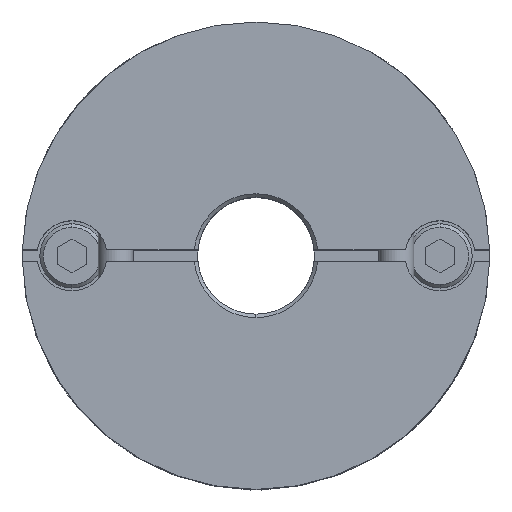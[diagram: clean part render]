
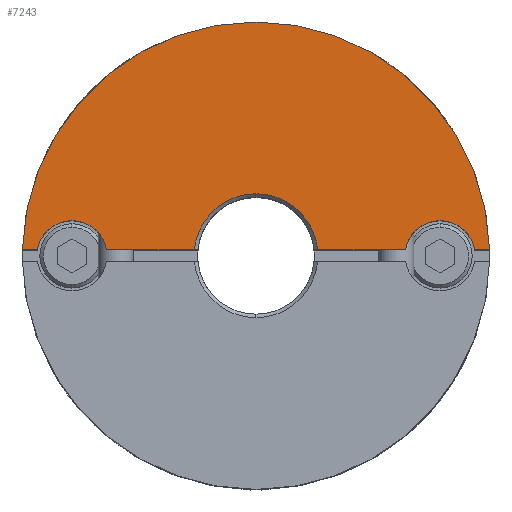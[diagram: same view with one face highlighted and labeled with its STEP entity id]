
A CAD part, top view. The second image highlights one B-rep face of the part: STEP entity #7243.
In plain terms, the highlighted planar face has unit normal (0, 0, 1).
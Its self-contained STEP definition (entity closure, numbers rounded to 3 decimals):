
#605=CARTESIAN_POINT('',(0.,20.0,15.6));
#606=VERTEX_POINT('',#605);
#690=CARTESIAN_POINT('',(-19.994,0.5,15.6));
#691=VERTEX_POINT('',#690);
#698=CARTESIAN_POINT('',(0.,0.0,15.6));
#699=DIRECTION('',(0.0,0.0,-1.0));
#700=DIRECTION('',(0.0,1.0,0.0));
#701=AXIS2_PLACEMENT_3D('',#698,#699,#700);
#702=CIRCLE('',#701,20.0);
#703=EDGE_CURVE('',#691,#606,#702,.T.);
#993=CARTESIAN_POINT('',(0.,5.3,15.6));
#994=VERTEX_POINT('',#993);
#1001=CARTESIAN_POINT('',(-5.276,0.5,15.6));
#1002=VERTEX_POINT('',#1001);
#1003=CARTESIAN_POINT('',(0.,0.0,15.6));
#1004=DIRECTION('',(0.0,0.0,1.0));
#1005=DIRECTION('',(0.0,-1.0,0.0));
#1006=AXIS2_PLACEMENT_3D('',#1003,#1004,#1005);
#1007=CIRCLE('',#1006,5.3);
#1008=EDGE_CURVE('',#994,#1002,#1007,.T.);
#1309=CARTESIAN_POINT('',(-15.75,3.,15.6));
#1310=VERTEX_POINT('',#1309);
#1319=CARTESIAN_POINT('',(-18.708,0.5,15.6));
#1320=VERTEX_POINT('',#1319);
#1321=CARTESIAN_POINT('',(-15.75,0.,15.6));
#1322=DIRECTION('',(0.0,0.0,-1.0));
#1323=DIRECTION('',(0.0,1.0,0.0));
#1324=AXIS2_PLACEMENT_3D('',#1321,#1322,#1323);
#1325=CIRCLE('',#1324,3.0);
#1326=EDGE_CURVE('',#1320,#1310,#1325,.T.);
#1579=CARTESIAN_POINT('',(15.75,3.,15.6));
#1580=VERTEX_POINT('',#1579);
#1589=CARTESIAN_POINT('',(12.792,0.5,15.6));
#1590=VERTEX_POINT('',#1589);
#1591=CARTESIAN_POINT('',(15.75,0.,15.6));
#1592=DIRECTION('',(0.0,0.0,-1.0));
#1593=DIRECTION('',(0.0,1.0,0.0));
#1594=AXIS2_PLACEMENT_3D('',#1591,#1592,#1593);
#1595=CIRCLE('',#1594,3.0);
#1596=EDGE_CURVE('',#1590,#1580,#1595,.T.);
#5954=CARTESIAN_POINT('',(18.708,0.5,15.6));
#5955=VERTEX_POINT('',#5954);
#5962=CARTESIAN_POINT('',(15.75,0.,15.6));
#5963=DIRECTION('',(0.0,0.0,-1.0));
#5964=DIRECTION('',(0.0,1.0,0.0));
#5965=AXIS2_PLACEMENT_3D('',#5962,#5963,#5964);
#5966=CIRCLE('',#5965,3.0);
#5967=EDGE_CURVE('',#1580,#5955,#5966,.T.);
#6406=CARTESIAN_POINT('',(-12.792,0.5,15.6));
#6407=VERTEX_POINT('',#6406);
#6414=CARTESIAN_POINT('',(-15.75,0.,15.6));
#6415=DIRECTION('',(0.0,0.0,-1.0));
#6416=DIRECTION('',(0.0,1.0,0.0));
#6417=AXIS2_PLACEMENT_3D('',#6414,#6415,#6416);
#6418=CIRCLE('',#6417,3.0);
#6419=EDGE_CURVE('',#1310,#6407,#6418,.T.);
#6512=CARTESIAN_POINT('',(-12.792,0.5,15.6));
#6513=DIRECTION('',(1.0,0.0,0.0));
#6514=VECTOR('',#6513,7.516);
#6515=LINE('',#6512,#6514);
#6516=EDGE_CURVE('',#6407,#1002,#6515,.T.);
#6579=CARTESIAN_POINT('',(5.276,0.5,15.6));
#6580=VERTEX_POINT('',#6579);
#6581=CARTESIAN_POINT('',(5.276,0.5,15.6));
#6582=DIRECTION('',(1.0,0.0,0.0));
#6583=VECTOR('',#6582,7.516);
#6584=LINE('',#6581,#6583);
#6585=EDGE_CURVE('',#6580,#1590,#6584,.T.);
#7146=CARTESIAN_POINT('',(-19.994,0.5,15.6));
#7147=DIRECTION('',(1.0,0.0,0.0));
#7148=VECTOR('',#7147,1.286);
#7149=LINE('',#7146,#7148);
#7150=EDGE_CURVE('',#691,#1320,#7149,.T.);
#7205=CARTESIAN_POINT('',(0.,1.818,15.6));
#7206=DIRECTION('',(0.0,0.0,1.0));
#7207=DIRECTION('',(0.0,1.0,0.0));
#7208=AXIS2_PLACEMENT_3D('',#7205,#7206,#7207);
#7209=PLANE('',#7208);
#7210=ORIENTED_EDGE('',*,*,#1326,.T.);
#7211=ORIENTED_EDGE('',*,*,#6419,.T.);
#7212=ORIENTED_EDGE('',*,*,#6516,.T.);
#7213=ORIENTED_EDGE('',*,*,#1008,.F.);
#7214=CARTESIAN_POINT('',(0.,0.0,15.6));
#7215=DIRECTION('',(0.0,0.0,1.0));
#7216=DIRECTION('',(0.0,-1.0,0.0));
#7217=AXIS2_PLACEMENT_3D('',#7214,#7215,#7216);
#7218=CIRCLE('',#7217,5.3);
#7219=EDGE_CURVE('',#6580,#994,#7218,.T.);
#7220=ORIENTED_EDGE('',*,*,#7219,.F.);
#7221=ORIENTED_EDGE('',*,*,#6585,.T.);
#7222=ORIENTED_EDGE('',*,*,#1596,.T.);
#7223=ORIENTED_EDGE('',*,*,#5967,.T.);
#7224=CARTESIAN_POINT('',(19.994,0.5,15.6));
#7225=VERTEX_POINT('',#7224);
#7226=CARTESIAN_POINT('',(18.708,0.5,15.6));
#7227=DIRECTION('',(1.0,0.0,0.0));
#7228=VECTOR('',#7227,1.286);
#7229=LINE('',#7226,#7228);
#7230=EDGE_CURVE('',#5955,#7225,#7229,.T.);
#7231=ORIENTED_EDGE('',*,*,#7230,.T.);
#7232=CARTESIAN_POINT('',(0.,0.0,15.6));
#7233=DIRECTION('',(0.0,0.0,-1.0));
#7234=DIRECTION('',(0.0,1.0,0.0));
#7235=AXIS2_PLACEMENT_3D('',#7232,#7233,#7234);
#7236=CIRCLE('',#7235,20.0);
#7237=EDGE_CURVE('',#606,#7225,#7236,.T.);
#7238=ORIENTED_EDGE('',*,*,#7237,.F.);
#7239=ORIENTED_EDGE('',*,*,#703,.F.);
#7240=ORIENTED_EDGE('',*,*,#7150,.T.);
#7241=EDGE_LOOP('',(#7210,#7211,#7212,#7213,#7220,#7221,#7222,#7223,#7231,#7238,#7239,#7240));
#7242=FACE_OUTER_BOUND('',#7241,.T.);
#7243=ADVANCED_FACE('',(#7242),#7209,.T.);
